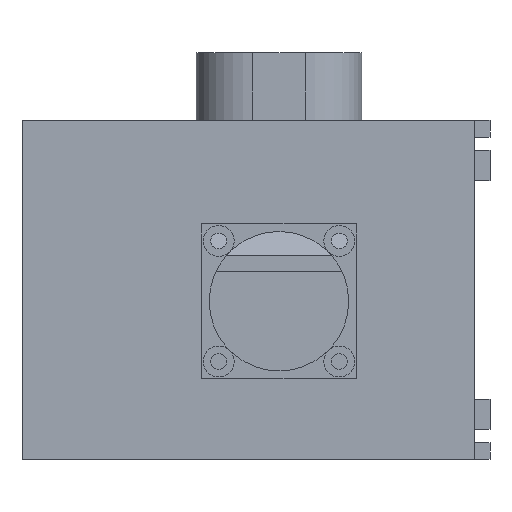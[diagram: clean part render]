
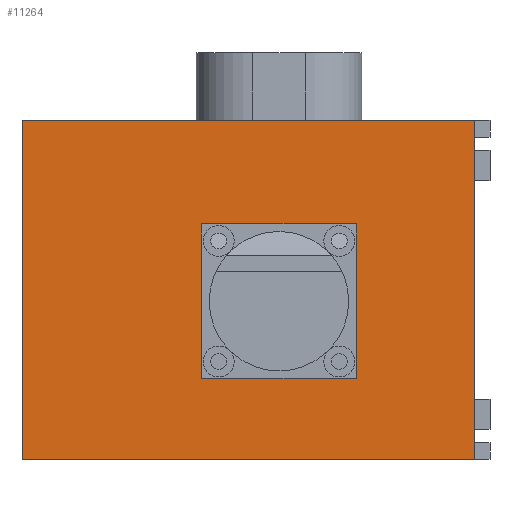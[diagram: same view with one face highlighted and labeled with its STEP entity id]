
A CAD part, front view. The second image highlights one B-rep face of the part: STEP entity #11264.
In plain terms, the highlighted planar face has unit normal (0, -1, 0).
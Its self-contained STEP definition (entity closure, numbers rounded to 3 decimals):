
#21 = EDGE_CURVE('',#22,#24,#26,.T.);
#22 = VERTEX_POINT('',#23);
#23 = CARTESIAN_POINT('',(-120.,-36.,0.));
#24 = VERTEX_POINT('',#25);
#25 = CARTESIAN_POINT('',(-120.,-36.,90.));
#26 = SURFACE_CURVE('',#27,(#31,#43),.PCURVE_S1.);
#27 = LINE('',#28,#29);
#28 = CARTESIAN_POINT('',(-120.,-36.,0.));
#29 = VECTOR('',#30,1.);
#30 = DIRECTION('',(0.,0.,1.));
#31 = PCURVE('',#32,#37);
#32 = PLANE('',#33);
#33 = AXIS2_PLACEMENT_3D('',#34,#35,#36);
#34 = CARTESIAN_POINT('',(-120.,-36.,0.));
#35 = DIRECTION('',(1.,0.,-0.));
#36 = DIRECTION('',(0.,0.,1.));
#37 = DEFINITIONAL_REPRESENTATION('',(#38),#42);
#38 = LINE('',#39,#40);
#39 = CARTESIAN_POINT('',(0.,0.));
#40 = VECTOR('',#41,1.);
#41 = DIRECTION('',(1.,0.));
#42 = ( GEOMETRIC_REPRESENTATION_CONTEXT(2) 
PARAMETRIC_REPRESENTATION_CONTEXT() REPRESENTATION_CONTEXT('2D SPACE',''
  ) );
#43 = PCURVE('',#44,#49);
#44 = PLANE('',#45);
#45 = AXIS2_PLACEMENT_3D('',#46,#47,#48);
#46 = CARTESIAN_POINT('',(-120.,-36.,0.));
#47 = DIRECTION('',(-0.,1.,0.));
#48 = DIRECTION('',(0.,0.,1.));
#49 = DEFINITIONAL_REPRESENTATION('',(#50),#54);
#50 = LINE('',#51,#52);
#51 = CARTESIAN_POINT('',(0.,0.));
#52 = VECTOR('',#53,1.);
#53 = DIRECTION('',(1.,0.));
#54 = ( GEOMETRIC_REPRESENTATION_CONTEXT(2) 
PARAMETRIC_REPRESENTATION_CONTEXT() REPRESENTATION_CONTEXT('2D SPACE',''
  ) );
#72 = PLANE('',#73);
#73 = AXIS2_PLACEMENT_3D('',#74,#75,#76);
#74 = CARTESIAN_POINT('',(-120.,-36.,0.));
#75 = DIRECTION('',(0.,0.,1.));
#76 = DIRECTION('',(1.,0.,-0.));
#126 = PLANE('',#127);
#127 = AXIS2_PLACEMENT_3D('',#128,#129,#130);
#128 = CARTESIAN_POINT('',(-120.,-36.,90.));
#129 = DIRECTION('',(0.,0.,1.));
#130 = DIRECTION('',(1.,0.,-0.));
#2533 = PLANE('',#2534);
#2534 = AXIS2_PLACEMENT_3D('',#2535,#2536,#2537);
#2535 = CARTESIAN_POINT('',(0.,-36.,0.));
#2536 = DIRECTION('',(1.,0.,-0.));
#2537 = DIRECTION('',(0.,0.,1.));
#4816 = VERTEX_POINT('',#4817);
#4817 = CARTESIAN_POINT('',(0.,-36.,90.));
#4838 = EDGE_CURVE('',#4839,#4816,#4841,.T.);
#4839 = VERTEX_POINT('',#4840);
#4840 = CARTESIAN_POINT('',(0.,-36.,0.));
#4841 = SURFACE_CURVE('',#4842,(#4846,#4853),.PCURVE_S1.);
#4842 = LINE('',#4843,#4844);
#4843 = CARTESIAN_POINT('',(0.,-36.,0.));
#4844 = VECTOR('',#4845,1.);
#4845 = DIRECTION('',(0.,0.,1.));
#4846 = PCURVE('',#2533,#4847);
#4847 = DEFINITIONAL_REPRESENTATION('',(#4848),#4852);
#4848 = LINE('',#4849,#4850);
#4849 = CARTESIAN_POINT('',(0.,0.));
#4850 = VECTOR('',#4851,1.);
#4851 = DIRECTION('',(1.,0.));
#4852 = ( GEOMETRIC_REPRESENTATION_CONTEXT(2) 
PARAMETRIC_REPRESENTATION_CONTEXT() REPRESENTATION_CONTEXT('2D SPACE',''
  ) );
#4853 = PCURVE('',#44,#4854);
#4854 = DEFINITIONAL_REPRESENTATION('',(#4855),#4859);
#4855 = LINE('',#4856,#4857);
#4856 = CARTESIAN_POINT('',(0.,120.));
#4857 = VECTOR('',#4858,1.);
#4858 = DIRECTION('',(1.,0.));
#4859 = ( GEOMETRIC_REPRESENTATION_CONTEXT(2) 
PARAMETRIC_REPRESENTATION_CONTEXT() REPRESENTATION_CONTEXT('2D SPACE',''
  ) );
#9506 = PLANE('',#9507);
#9507 = AXIS2_PLACEMENT_3D('',#9508,#9509,#9510);
#9508 = CARTESIAN_POINT('',(-72.5,-36.2,62.5));
#9509 = DIRECTION('',(0.,0.,1.));
#9510 = DIRECTION('',(1.,0.,-0.));
#9533 = PLANE('',#9534);
#9534 = AXIS2_PLACEMENT_3D('',#9535,#9536,#9537);
#9535 = CARTESIAN_POINT('',(-31.5,-36.2,21.5));
#9536 = DIRECTION('',(1.,0.,-0.));
#9537 = DIRECTION('',(0.,0.,1.));
#9560 = PLANE('',#9561);
#9561 = AXIS2_PLACEMENT_3D('',#9562,#9563,#9564);
#9562 = CARTESIAN_POINT('',(-72.5,-36.2,21.5));
#9563 = DIRECTION('',(0.,0.,1.));
#9564 = DIRECTION('',(1.,0.,-0.));
#9585 = PLANE('',#9586);
#9586 = AXIS2_PLACEMENT_3D('',#9587,#9588,#9589);
#9587 = CARTESIAN_POINT('',(-72.5,-36.2,21.5));
#9588 = DIRECTION('',(1.,0.,-0.));
#9589 = DIRECTION('',(0.,0.,1.));
#10247 = EDGE_CURVE('',#10248,#10250,#10252,.T.);
#10248 = VERTEX_POINT('',#10249);
#10249 = CARTESIAN_POINT('',(-72.5,-36.,21.5));
#10250 = VERTEX_POINT('',#10251);
#10251 = CARTESIAN_POINT('',(-31.5,-36.,21.5));
#10252 = SURFACE_CURVE('',#10253,(#10257,#10264),.PCURVE_S1.);
#10253 = LINE('',#10254,#10255);
#10254 = CARTESIAN_POINT('',(-96.25,-36.,21.5));
#10255 = VECTOR('',#10256,1.);
#10256 = DIRECTION('',(1.,0.,-0.));
#10257 = PCURVE('',#9560,#10258);
#10258 = DEFINITIONAL_REPRESENTATION('',(#10259),#10263);
#10259 = LINE('',#10260,#10261);
#10260 = CARTESIAN_POINT('',(-23.75,0.2));
#10261 = VECTOR('',#10262,1.);
#10262 = DIRECTION('',(1.,0.));
#10263 = ( GEOMETRIC_REPRESENTATION_CONTEXT(2) 
PARAMETRIC_REPRESENTATION_CONTEXT() REPRESENTATION_CONTEXT('2D SPACE',''
  ) );
#10264 = PCURVE('',#44,#10265);
#10265 = DEFINITIONAL_REPRESENTATION('',(#10266),#10269);
#10266 = B_SPLINE_CURVE_WITH_KNOTS('',1,(#10267,#10268),.UNSPECIFIED.,
  .F.,.F.,(2,2),(23.75,64.75),.PIECEWISE_BEZIER_KNOTS.);
#10267 = CARTESIAN_POINT('',(21.5,47.5));
#10268 = CARTESIAN_POINT('',(21.5,88.5));
#10269 = ( GEOMETRIC_REPRESENTATION_CONTEXT(2) 
PARAMETRIC_REPRESENTATION_CONTEXT() REPRESENTATION_CONTEXT('2D SPACE',''
  ) );
#10318 = VERTEX_POINT('',#10319);
#10319 = CARTESIAN_POINT('',(-72.5,-36.,62.5));
#10340 = EDGE_CURVE('',#10318,#10248,#10341,.T.);
#10341 = SURFACE_CURVE('',#10342,(#10346,#10353),.PCURVE_S1.);
#10342 = LINE('',#10343,#10344);
#10343 = CARTESIAN_POINT('',(-72.5,-36.,10.75));
#10344 = VECTOR('',#10345,1.);
#10345 = DIRECTION('',(-0.,0.,-1.));
#10346 = PCURVE('',#9585,#10347);
#10347 = DEFINITIONAL_REPRESENTATION('',(#10348),#10352);
#10348 = LINE('',#10349,#10350);
#10349 = CARTESIAN_POINT('',(-10.75,-0.2));
#10350 = VECTOR('',#10351,1.);
#10351 = DIRECTION('',(-1.,-0.));
#10352 = ( GEOMETRIC_REPRESENTATION_CONTEXT(2) 
PARAMETRIC_REPRESENTATION_CONTEXT() REPRESENTATION_CONTEXT('2D SPACE',''
  ) );
#10353 = PCURVE('',#44,#10354);
#10354 = DEFINITIONAL_REPRESENTATION('',(#10355),#10358);
#10355 = B_SPLINE_CURVE_WITH_KNOTS('',1,(#10356,#10357),.UNSPECIFIED.,
  .F.,.F.,(2,2),(-51.75,-10.75),.PIECEWISE_BEZIER_KNOTS.);
#10356 = CARTESIAN_POINT('',(62.5,47.5));
#10357 = CARTESIAN_POINT('',(21.5,47.5));
#10358 = ( GEOMETRIC_REPRESENTATION_CONTEXT(2) 
PARAMETRIC_REPRESENTATION_CONTEXT() REPRESENTATION_CONTEXT('2D SPACE',''
  ) );
#10365 = EDGE_CURVE('',#10366,#10250,#10368,.T.);
#10366 = VERTEX_POINT('',#10367);
#10367 = CARTESIAN_POINT('',(-31.5,-36.,62.5));
#10368 = SURFACE_CURVE('',#10369,(#10373,#10380),.PCURVE_S1.);
#10369 = LINE('',#10370,#10371);
#10370 = CARTESIAN_POINT('',(-31.5,-36.,10.75));
#10371 = VECTOR('',#10372,1.);
#10372 = DIRECTION('',(-0.,0.,-1.));
#10373 = PCURVE('',#9533,#10374);
#10374 = DEFINITIONAL_REPRESENTATION('',(#10375),#10379);
#10375 = LINE('',#10376,#10377);
#10376 = CARTESIAN_POINT('',(-10.75,-0.2));
#10377 = VECTOR('',#10378,1.);
#10378 = DIRECTION('',(-1.,-0.));
#10379 = ( GEOMETRIC_REPRESENTATION_CONTEXT(2) 
PARAMETRIC_REPRESENTATION_CONTEXT() REPRESENTATION_CONTEXT('2D SPACE',''
  ) );
#10380 = PCURVE('',#44,#10381);
#10381 = DEFINITIONAL_REPRESENTATION('',(#10382),#10385);
#10382 = B_SPLINE_CURVE_WITH_KNOTS('',1,(#10383,#10384),.UNSPECIFIED.,
  .F.,.F.,(2,2),(-51.75,-10.75),.PIECEWISE_BEZIER_KNOTS.);
#10383 = CARTESIAN_POINT('',(62.5,88.5));
#10384 = CARTESIAN_POINT('',(21.5,88.5));
#10385 = ( GEOMETRIC_REPRESENTATION_CONTEXT(2) 
PARAMETRIC_REPRESENTATION_CONTEXT() REPRESENTATION_CONTEXT('2D SPACE',''
  ) );
#10414 = EDGE_CURVE('',#10318,#10366,#10415,.T.);
#10415 = SURFACE_CURVE('',#10416,(#10420,#10427),.PCURVE_S1.);
#10416 = LINE('',#10417,#10418);
#10417 = CARTESIAN_POINT('',(-96.25,-36.,62.5));
#10418 = VECTOR('',#10419,1.);
#10419 = DIRECTION('',(1.,0.,-0.));
#10420 = PCURVE('',#9506,#10421);
#10421 = DEFINITIONAL_REPRESENTATION('',(#10422),#10426);
#10422 = LINE('',#10423,#10424);
#10423 = CARTESIAN_POINT('',(-23.75,0.2));
#10424 = VECTOR('',#10425,1.);
#10425 = DIRECTION('',(1.,0.));
#10426 = ( GEOMETRIC_REPRESENTATION_CONTEXT(2) 
PARAMETRIC_REPRESENTATION_CONTEXT() REPRESENTATION_CONTEXT('2D SPACE',''
  ) );
#10427 = PCURVE('',#44,#10428);
#10428 = DEFINITIONAL_REPRESENTATION('',(#10429),#10432);
#10429 = B_SPLINE_CURVE_WITH_KNOTS('',1,(#10430,#10431),.UNSPECIFIED.,
  .F.,.F.,(2,2),(23.75,64.75),.PIECEWISE_BEZIER_KNOTS.);
#10430 = CARTESIAN_POINT('',(62.5,47.5));
#10431 = CARTESIAN_POINT('',(62.5,88.5));
#10432 = ( GEOMETRIC_REPRESENTATION_CONTEXT(2) 
PARAMETRIC_REPRESENTATION_CONTEXT() REPRESENTATION_CONTEXT('2D SPACE',''
  ) );
#11202 = EDGE_CURVE('',#22,#4839,#11203,.T.);
#11203 = SURFACE_CURVE('',#11204,(#11208,#11215),.PCURVE_S1.);
#11204 = LINE('',#11205,#11206);
#11205 = CARTESIAN_POINT('',(-120.,-36.,0.));
#11206 = VECTOR('',#11207,1.);
#11207 = DIRECTION('',(1.,0.,-0.));
#11208 = PCURVE('',#72,#11209);
#11209 = DEFINITIONAL_REPRESENTATION('',(#11210),#11214);
#11210 = LINE('',#11211,#11212);
#11211 = CARTESIAN_POINT('',(0.,0.));
#11212 = VECTOR('',#11213,1.);
#11213 = DIRECTION('',(1.,0.));
#11214 = ( GEOMETRIC_REPRESENTATION_CONTEXT(2) 
PARAMETRIC_REPRESENTATION_CONTEXT() REPRESENTATION_CONTEXT('2D SPACE',''
  ) );
#11215 = PCURVE('',#44,#11216);
#11216 = DEFINITIONAL_REPRESENTATION('',(#11217),#11221);
#11217 = LINE('',#11218,#11219);
#11218 = CARTESIAN_POINT('',(0.,0.));
#11219 = VECTOR('',#11220,1.);
#11220 = DIRECTION('',(0.,1.));
#11221 = ( GEOMETRIC_REPRESENTATION_CONTEXT(2) 
PARAMETRIC_REPRESENTATION_CONTEXT() REPRESENTATION_CONTEXT('2D SPACE',''
  ) );
#11233 = EDGE_CURVE('',#24,#4816,#11234,.T.);
#11234 = SURFACE_CURVE('',#11235,(#11239,#11246),.PCURVE_S1.);
#11235 = LINE('',#11236,#11237);
#11236 = CARTESIAN_POINT('',(-120.,-36.,90.));
#11237 = VECTOR('',#11238,1.);
#11238 = DIRECTION('',(1.,0.,-0.));
#11239 = PCURVE('',#126,#11240);
#11240 = DEFINITIONAL_REPRESENTATION('',(#11241),#11245);
#11241 = LINE('',#11242,#11243);
#11242 = CARTESIAN_POINT('',(0.,0.));
#11243 = VECTOR('',#11244,1.);
#11244 = DIRECTION('',(1.,0.));
#11245 = ( GEOMETRIC_REPRESENTATION_CONTEXT(2) 
PARAMETRIC_REPRESENTATION_CONTEXT() REPRESENTATION_CONTEXT('2D SPACE',''
  ) );
#11246 = PCURVE('',#44,#11247);
#11247 = DEFINITIONAL_REPRESENTATION('',(#11248),#11252);
#11248 = LINE('',#11249,#11250);
#11249 = CARTESIAN_POINT('',(90.,0.));
#11250 = VECTOR('',#11251,1.);
#11251 = DIRECTION('',(0.,1.));
#11252 = ( GEOMETRIC_REPRESENTATION_CONTEXT(2) 
PARAMETRIC_REPRESENTATION_CONTEXT() REPRESENTATION_CONTEXT('2D SPACE',''
  ) );
#11264 = ADVANCED_FACE('',(#11265,#11271),#44,.F.);
#11265 = FACE_BOUND('',#11266,.F.);
#11266 = EDGE_LOOP('',(#11267,#11268,#11269,#11270));
#11267 = ORIENTED_EDGE('',*,*,#11202,.F.);
#11268 = ORIENTED_EDGE('',*,*,#21,.T.);
#11269 = ORIENTED_EDGE('',*,*,#11233,.T.);
#11270 = ORIENTED_EDGE('',*,*,#4838,.F.);
#11271 = FACE_BOUND('',#11272,.F.);
#11272 = EDGE_LOOP('',(#11273,#11274,#11275,#11276));
#11273 = ORIENTED_EDGE('',*,*,#10414,.F.);
#11274 = ORIENTED_EDGE('',*,*,#10340,.T.);
#11275 = ORIENTED_EDGE('',*,*,#10247,.T.);
#11276 = ORIENTED_EDGE('',*,*,#10365,.F.);
